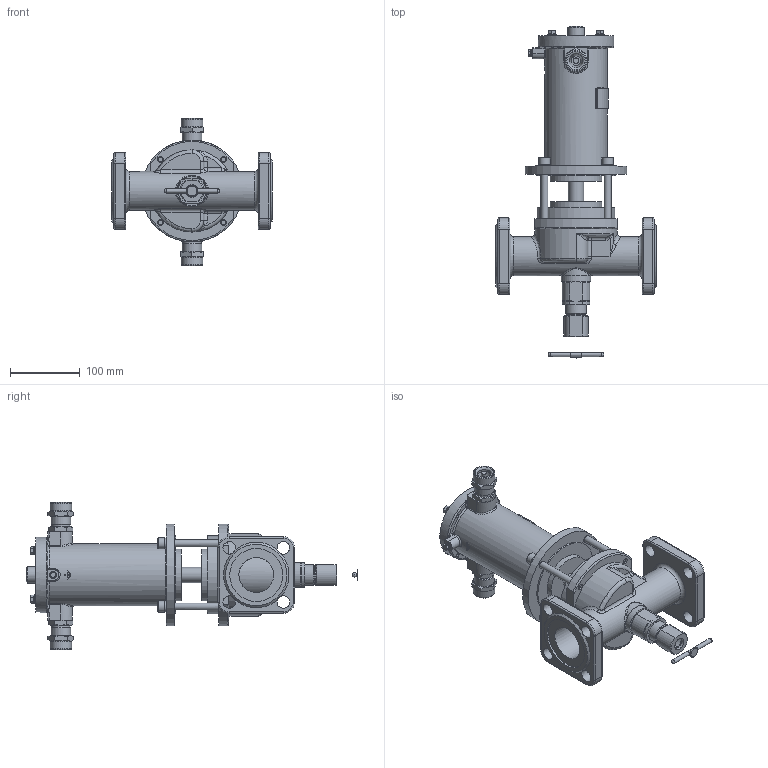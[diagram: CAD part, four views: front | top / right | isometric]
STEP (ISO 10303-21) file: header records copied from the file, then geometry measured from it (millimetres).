
FILE_DESCRIPTION(('STEP AP203'), '1');
FILE_NAME('ÑÅÍÑ DN50PN25-Â-ÍÎ-200Ñ-ÑÂ.stp', '2018-09-19T08:54:17', ('Îðëîâ Å.Â.'), ('ÎÎÎ ÍÏÏ Ñåíñîð'), 'ASCON STEP Converter 1.3', 'Kompas 3D', '');
FILE_SCHEMA(('CONFIG_CONTROL_DESIGN','SUPPORT_RESOURCE_SCHEMA'));
Length unit declared in the file: millimetre
Products named in the file (1): 98
Bounding box: 230 x 476.5 x 211 mm (x, y, z)
Volume: 1613905.5 mm3; surface area: 450017.6 mm2
Topology: 2 solids, 20 shells, 2003 faces, 5288 edges, 3416 vertices
Faces by surface type: cylinder 1020, plane 735, cone 131, torus 50, bspline 47, extrusion 16, sphere 4
Full cylindrical faces by diameter (mm): 3.5 x2, 4.134 x1, 4.917 x4, 5 x1, 6 x11, 6.5 x4, 8 x8, 8.376 x4, 9 x1, 10 x5, 11 x4, 12 x4, 13 x2, 16 x6, 17 x2, 18 x9, 20 x4, 20.9 x1, 22 x3, 22.376 x2, 23 x1, 23.5 x2, 24 x3, 24.5 x2, 26 x4, 26.376 x2, 27.8 x1, 28 x3, 28.5 x2, 30 x2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
Entity records: 77769 total; most frequent: CARTESIAN_POINT 27047, DIRECTION 11011, ORIENTED_EDGE 10518, EDGE_CURVE 5259, AXIS2_PLACEMENT_3D 4235, VERTEX_POINT 3416, VECTOR 2541, LINE 2525
